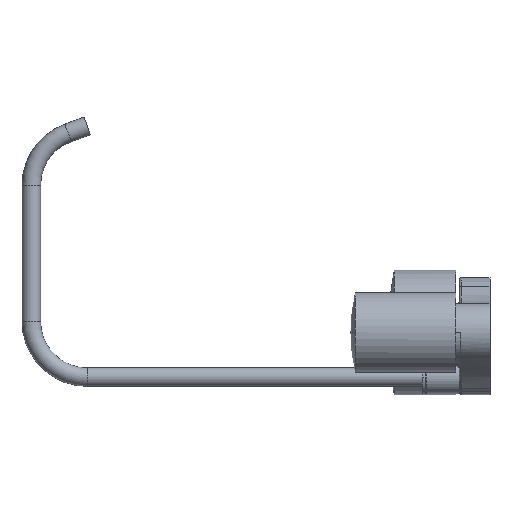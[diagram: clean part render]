
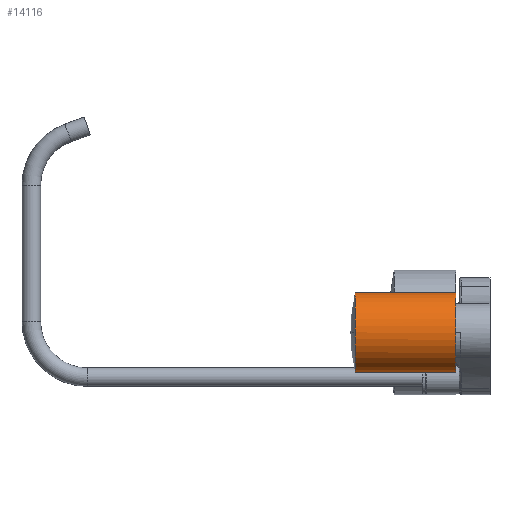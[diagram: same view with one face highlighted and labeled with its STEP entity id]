
A CAD part, left-side view. The second image highlights one B-rep face of the part: STEP entity #14116.
In plain terms, the highlighted cylindrical face has radius 21.5 mm (diameter 43 mm), a partial arc.
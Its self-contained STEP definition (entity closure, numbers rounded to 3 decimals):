
#13596=CARTESIAN_POINT('',(-13.466,73.5,20.317));
#13603=CARTESIAN_POINT('',(-20.5,73.5,0.));
#13604=DIRECTION('',(0.,1.,0.));
#13605=DIRECTION('',(-1.,0.,0.));
#13606=AXIS2_PLACEMENT_3D('',#13603,#13604,#13605);
#13608=CARTESIAN_POINT('',(-20.5,73.5,0.));
#13609=DIRECTION('',(0.,1.,0.));
#13610=DIRECTION('',(0.945,0.,0.327));
#13611=AXIS2_PLACEMENT_3D('',#13608,#13609,#13610);
#13618=CARTESIAN_POINT('',(-0.183,73.5,7.034));
#13625=DIRECTION('',(0.,1.,0.));
#13626=VECTOR('',#13625,54.);
#13627=CARTESIAN_POINT('',(-13.466,19.5,20.317));
#13628=LINE('',#13627,#13626);
#13629=CARTESIAN_POINT('',(-20.5,19.5,0.));
#13630=DIRECTION('',(0.,-1.,0.));
#13631=DIRECTION('',(0.327,0.,0.945));
#13632=AXIS2_PLACEMENT_3D('',#13629,#13630,#13631);
#13634=DIRECTION('',(0.,-1.,0.));
#13635=VECTOR('',#13634,54.);
#13636=CARTESIAN_POINT('',(-0.183,73.5,7.034));
#13637=LINE('',#13636,#13635);
#13651=CARTESIAN_POINT('',(-20.5,73.5,0.));
#13652=DIRECTION('',(0.,-1.,0.));
#13653=DIRECTION('',(-1.,0.,0.));
#13654=AXIS2_PLACEMENT_3D('',#13651,#13652,#13653);
#13899=CARTESIAN_POINT('',(-42.,73.5,0.));
#13901=VERTEX_POINT('',#13899);
#13903=CARTESIAN_POINT('',(1.,73.5,0.));
#13904=VERTEX_POINT('',#13903);
#13905=VERTEX_POINT('',#13596);
#13909=CARTESIAN_POINT('',(-13.466,19.5,20.317));
#13910=VERTEX_POINT('',#13909);
#13911=CARTESIAN_POINT('',(-0.183,19.5,7.034));
#13913=VERTEX_POINT('',#13911);
#13917=VERTEX_POINT('',#13618);
#14101=CARTESIAN_POINT('',(-20.5,16.675,0.));
#14102=DIRECTION('',(0.,1.,0.));
#14103=DIRECTION('',(-1.,0.,0.));
#14104=AXIS2_PLACEMENT_3D('',#14101,#14102,#14103);
#14105=CYLINDRICAL_SURFACE('',#14104,21.5);
#14106=ORIENTED_EDGE('',*,*,#14075,.F.);
#14107=ORIENTED_EDGE('',*,*,#14051,.T.);
#14109=ORIENTED_EDGE('',*,*,#14108,.F.);
#14110=ORIENTED_EDGE('',*,*,#14092,.T.);
#14112=ORIENTED_EDGE('',*,*,#14111,.F.);
#14113=ORIENTED_EDGE('',*,*,#14086,.T.);
#14114=EDGE_LOOP('',(#14106,#14107,#14109,#14110,#14112,#14113));
#14115=FACE_OUTER_BOUND('',#14114,.F.);
#14116=ADVANCED_FACE('',(#14115),#14105,.T.);
#13607=CIRCLE('',#13606,21.5);
#13612=CIRCLE('',#13611,21.5);
#13633=CIRCLE('',#13632,21.5);
#13655=CIRCLE('',#13654,21.5);
#14051=EDGE_CURVE('',#13910,#13913,#13633,.T.);
#14075=EDGE_CURVE('',#13910,#13905,#13628,.T.);
#14086=EDGE_CURVE('',#13901,#13905,#13607,.T.);
#14092=EDGE_CURVE('',#13917,#13904,#13612,.T.);
#14108=EDGE_CURVE('',#13917,#13913,#13637,.T.);
#14111=EDGE_CURVE('',#13901,#13904,#13655,.T.);
